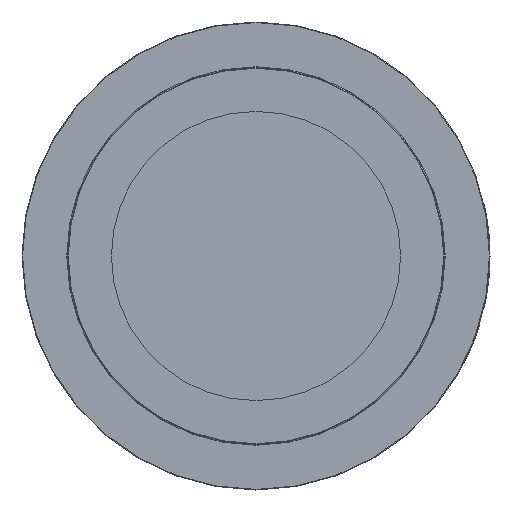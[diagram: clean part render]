
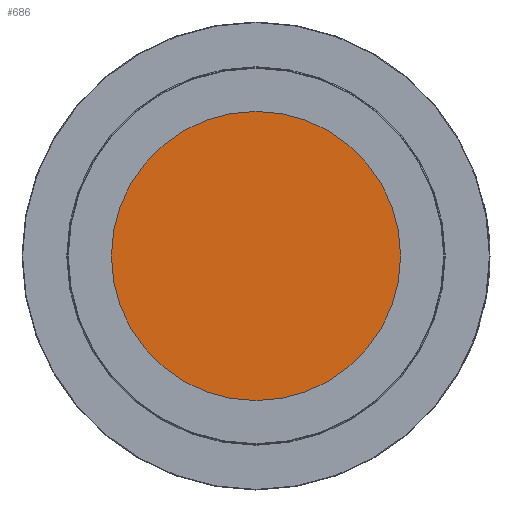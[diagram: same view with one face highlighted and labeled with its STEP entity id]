
A CAD part, left-side view. The second image highlights one B-rep face of the part: STEP entity #686.
In plain terms, the highlighted planar face has unit normal (-1, 0, 0).
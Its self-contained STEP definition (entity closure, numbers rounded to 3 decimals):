
#686 = ADVANCED_FACE( '', ( #1413 ), #1414, .T. );
#1413 = FACE_OUTER_BOUND( '', #4562, .T. );
#1414 = PLANE( '', #4563 );
#4562 = EDGE_LOOP( '', ( #6391 ) );
#4563 = AXIS2_PLACEMENT_3D( '', #6392, #6393, #6394 );
#6391 = ORIENTED_EDGE( '', *, *, #6797, .T. );
#6392 = CARTESIAN_POINT( '', ( -0.13, 0., 0. ) );
#6393 = DIRECTION( '', ( -1., 0., 0. ) );
#6394 = DIRECTION( '', ( 0., 0., 1. ) );
#6797 = EDGE_CURVE( '', #7682, #7682, #7683, .T. );
#7682 = VERTEX_POINT( '', #9306 );
#7683 = CIRCLE( '', #9307, 127.508 );
#9306 = CARTESIAN_POINT( '', ( -0.13, 0., 127.508 ) );
#9307 = AXIS2_PLACEMENT_3D( '', #12333, #12334, #12335 );
#12333 = CARTESIAN_POINT( '', ( -0.13, 0., 0. ) );
#12334 = DIRECTION( '', ( -1., 0., 0. ) );
#12335 = DIRECTION( '', ( 0., 0., 1. ) );
